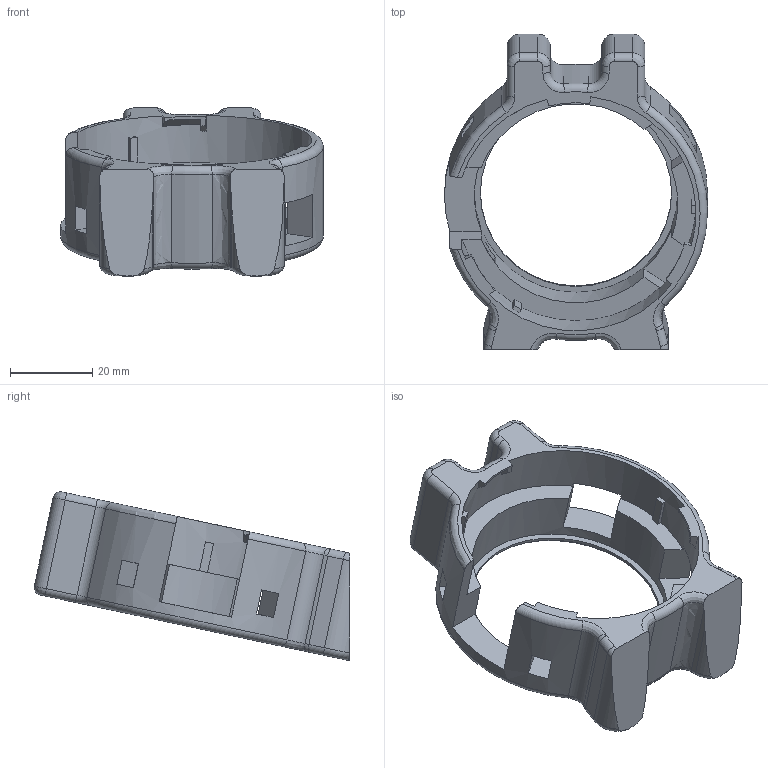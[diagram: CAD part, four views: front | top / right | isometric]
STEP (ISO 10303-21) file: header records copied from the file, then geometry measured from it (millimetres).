
FILE_DESCRIPTION(('Open CASCADE Model'),'2;1');
FILE_NAME('Open CASCADE Shape Model','2026-10-13T21:35:45',('Author'),( 'Open CASCADE'),'Open CASCADE STEP processor 7.9','Open CASCADE 7.9' ,'Unknown');
FILE_SCHEMA(('AUTOMOTIVE_DESIGN { 1 0 10303 214 1 1 1 1 }'));
Length unit declared in the file: millimetre
Products named in the file (1): Open CASCADE STEP translator 7.9 1
Bounding box: 64 x 76.8 x 40.97 mm (x, y, z)
Volume: 31291.7 mm3; surface area: 14111.2 mm2
Topology: 1 solids, 1 shells, 162 faces, 429 edges, 267 vertices
Faces by surface type: plane 61, cylinder 44, torus 27, bspline 12, cone 10, revolution 8
Full cylindrical faces by diameter (mm): 46.5 x1, 49.46 x1
Entity records: 12492 total; most frequent: CARTESIAN_POINT 4023, DIRECTION 1611, LINE 905, VECTOR 905, ORIENTED_EDGE 858, PCURVE 858, DEFINITIONAL_REPRESENTATION 858, EDGE_CURVE 429
